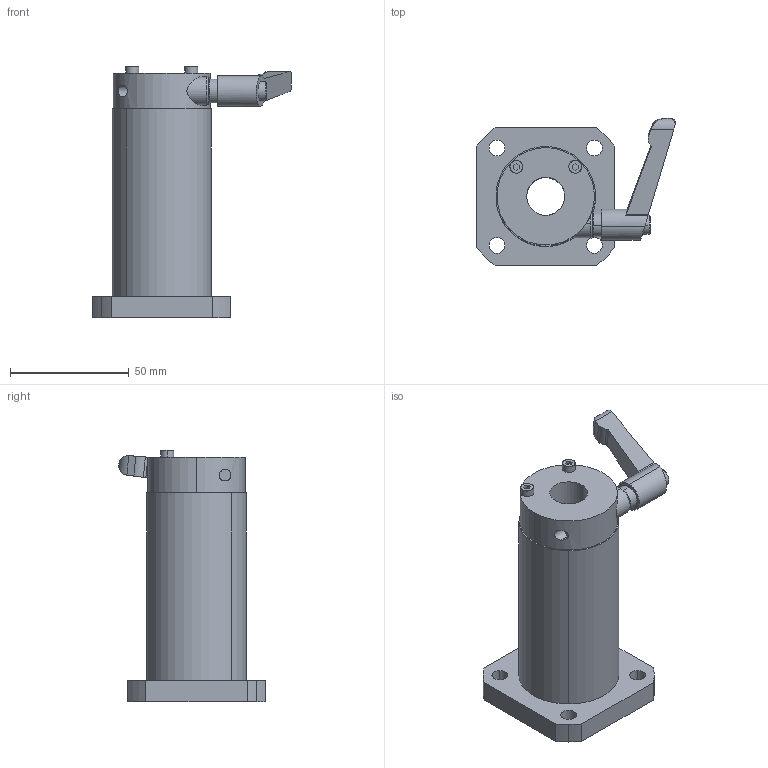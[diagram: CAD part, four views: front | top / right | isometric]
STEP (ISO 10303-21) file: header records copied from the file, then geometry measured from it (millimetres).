
FILE_DESCRIPTION (( 'STEP AP214' ), '1' );
FILE_NAME ('LFWK16MF-C.STEP', '2023-06-27T02:53:54', ( '' ), ( '' ), 'SwSTEP 2.0', 'SolidWorks 2019', '' );
FILE_SCHEMA (( 'AUTOMOTIVE_DESIGN' ));
Length unit declared in the file: millimetre
Products named in the file (3): LFWK16MF-C; LFWK16MF; “ÁSCK1615CO-S3.4
Assembly tree (2 placements, depth 2):
  LFWK16MF-C
    LFWK16MF
    “ÁSCK1615CO-S3.4
Bounding box: 83.5 x 61.81 x 106 mm (x, y, z)
Volume: 138822.3 mm3; surface area: 34523.6 mm2
Topology: 3 solids, 5 shells, 172 faces, 436 edges, 278 vertices
Faces by surface type: cylinder 73, plane 64, bspline 16, cone 11, torus 8
Entity records: 7712 total; most frequent: CARTESIAN_POINT 1416, DIRECTION 955, ORIENTED_EDGE 872, EDGE_CURVE 436, AXIS2_PLACEMENT_3D 389, VERTEX_POINT 278, CIRCLE 228, EDGE_LOOP 208
